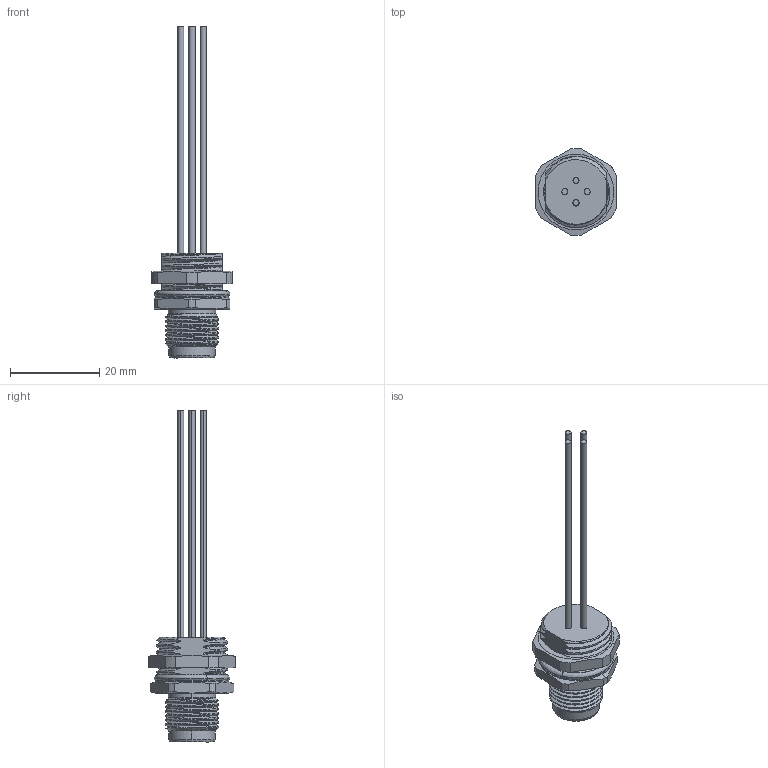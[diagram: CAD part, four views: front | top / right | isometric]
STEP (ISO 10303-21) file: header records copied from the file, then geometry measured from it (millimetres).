
FILE_DESCRIPTION (( 'STEP AP203' ), '1' );
FILE_NAME ('64SA21-XXX.STEP', '2023-10-19T07:57:58', ( 'ADMIN' ), ( '' ), 'SwSTEP 2.0', 'SolidWorks 2016', '' );
FILE_SCHEMA (( 'CONFIG_CONTROL_DESIGN' ));
Length unit declared in the file: millimetre
Products named in the file (1): 64SA21-XXX
Bounding box: 18 x 19.5 x 74.5 mm (x, y, z)
Volume: 3609.3 mm3; surface area: 3366.9 mm2
Topology: 1 solids, 1 shells, 426 faces, 1237 edges, 825 vertices
Faces by surface type: bspline 143, cylinder 143, plane 140
Entity records: 32776 total; most frequent: CARTESIAN_POINT 23434, ORIENTED_EDGE 2468, EDGE_CURVE 1234, DIRECTION 1115, VERTEX_POINT 825, B_SPLINE_CURVE_WITH_KNOTS 758, EDGE_LOOP 449, FACE_OUTER_BOUND 426
